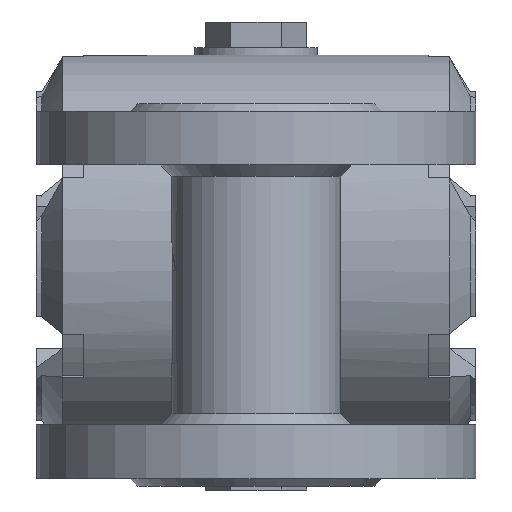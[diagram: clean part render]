
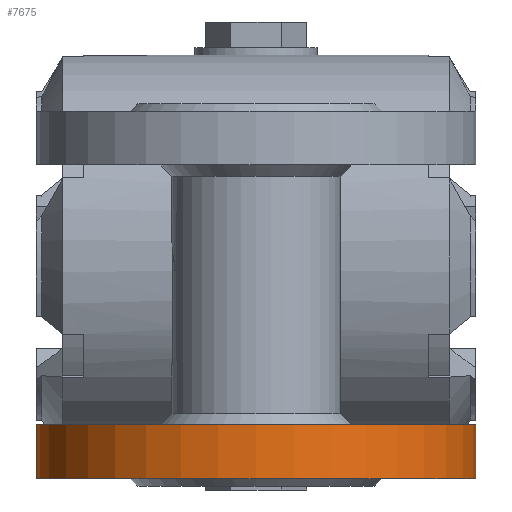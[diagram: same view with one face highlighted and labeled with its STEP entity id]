
A CAD part, front view. The second image highlights one B-rep face of the part: STEP entity #7675.
In plain terms, the highlighted cylindrical face has radius 57.5 mm (diameter 115 mm), a full revolution.
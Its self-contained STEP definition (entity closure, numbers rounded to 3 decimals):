
#786=CIRCLE('',#27550,57.5);
#787=CIRCLE('',#27552,57.5);
#6080=CYLINDRICAL_SURFACE('',#27553,57.5);
#6293=FACE_BOUND('',#11223,.T.);
#6294=FACE_BOUND('',#11224,.T.);
#7675=ADVANCED_FACE('',(#6293,#6294),#6080,.T.);
#11223=EDGE_LOOP('',(#18544));
#11224=EDGE_LOOP('',(#18545));
#18544=ORIENTED_EDGE('',*,*,#24816,.T.);
#18545=ORIENTED_EDGE('',*,*,#24815,.T.);
#21132=VERTEX_POINT('',#46513);
#21133=VERTEX_POINT('',#46516);
#24815=EDGE_CURVE('',#21132,#21132,#786,.T.);
#24816=EDGE_CURVE('',#21133,#21133,#787,.T.);
#27550=AXIS2_PLACEMENT_3D('',#46512,#32529,#32530);
#27552=AXIS2_PLACEMENT_3D('',#46515,#32533,#32534);
#27553=AXIS2_PLACEMENT_3D('',#46517,#32535,#32536);
#32529=DIRECTION('',(0.,0.,1.));
#32530=DIRECTION('',(-1.,0.,0.));
#32533=DIRECTION('',(0.,0.,-1.));
#32534=DIRECTION('',(-1.,0.,0.));
#32535=DIRECTION('',(0.,0.,-1.));
#32536=DIRECTION('',(1.,0.,0.));
#46512=CARTESIAN_POINT('',(0.016,-14.,-58.2));
#46513=CARTESIAN_POINT('',(-57.484,-14.,-58.2));
#46515=CARTESIAN_POINT('',(0.016,-14.,-44.2));
#46516=CARTESIAN_POINT('',(-57.484,-14.,-44.2));
#46517=CARTESIAN_POINT('',(0.016,-14.,-44.2));
